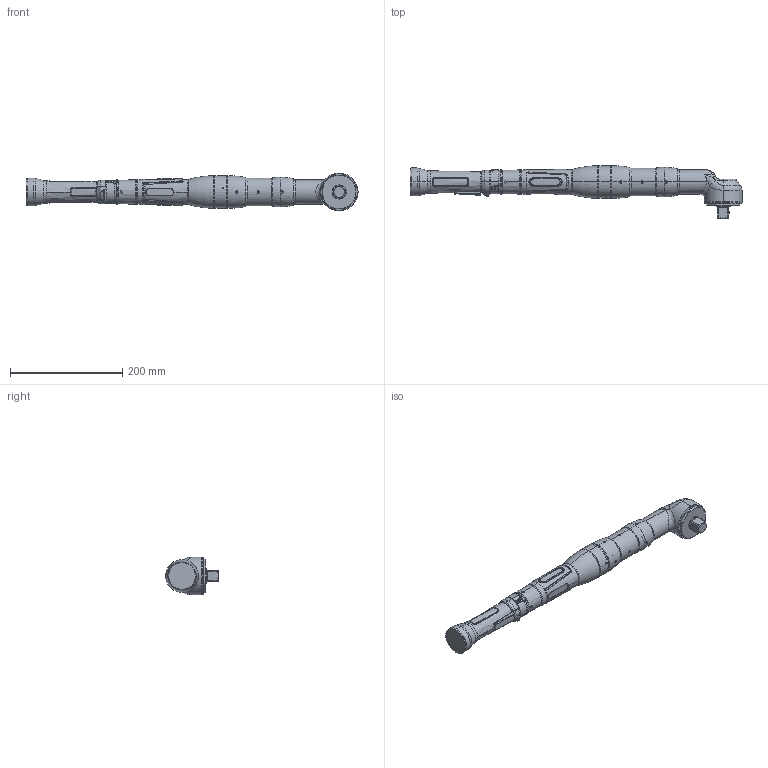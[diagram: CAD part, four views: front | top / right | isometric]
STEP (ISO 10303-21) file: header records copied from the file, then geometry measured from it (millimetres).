
FILE_DESCRIPTION (( 'STEP AP214' ), '1' );
FILE_NAME ('70259991_HSX2250WV34GF.STEP', '2026-03-17T10:35:01', ( '' ), ( '' ), 'SwSTEP 2.0', 'SolidWorks 2020', '' );
FILE_SCHEMA (( 'AUTOMOTIVE_DESIGN' ));
Length unit declared in the file: millimetre
Products named in the file (5): 70079660; 70259991_HSX2250WV34GF; 70058288; 70086960; 70058297
Assembly tree (4 placements, depth 2):
  70259991_HSX2250WV34GF
    70086960
    70058288
    70079660
    70058297
Bounding box: 590.46 x 93.5 x 67 mm (x, y, z)
Volume: 1045457.7 mm3; surface area: 140143.4 mm2
Topology: 4 solids, 4 shells, 1339 faces, 3331 edges, 2063 vertices
Faces by surface type: cylinder 378, plane 361, bspline 267, cone 206, torus 120, sphere 7
Entity records: 55527 total; most frequent: CARTESIAN_POINT 26022, ORIENTED_EDGE 6646, DIRECTION 5452, EDGE_CURVE 3323, AXIS2_PLACEMENT_3D 2211, VERTEX_POINT 2063, EDGE_LOOP 1420, ADVANCED_FACE 1339
